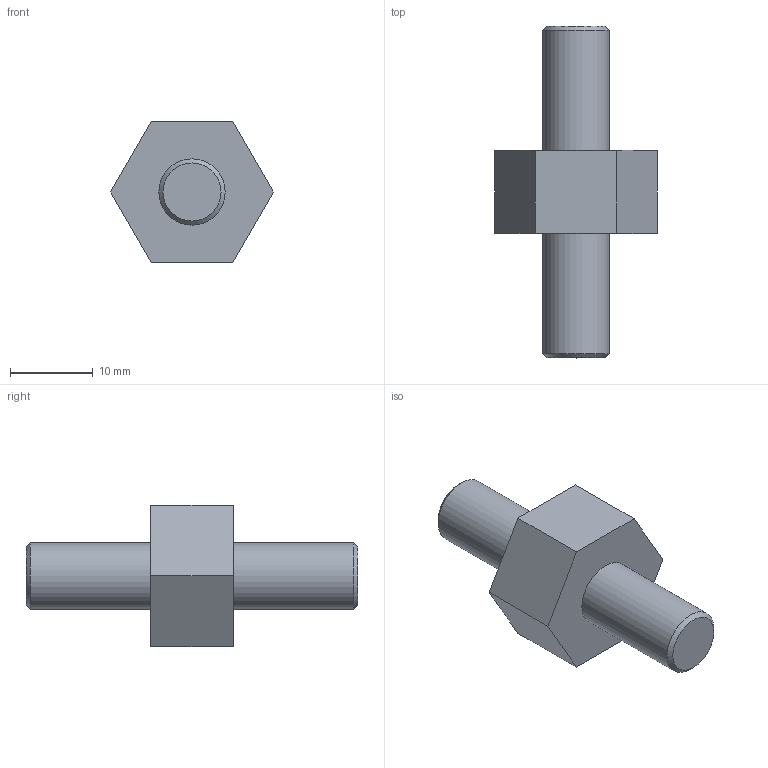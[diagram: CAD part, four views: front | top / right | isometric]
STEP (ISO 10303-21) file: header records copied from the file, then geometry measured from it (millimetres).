
FILE_DESCRIPTION (( 'STEP AP214' ), '1' );
FILE_NAME ('N30141.step', '2024-12-03T16:27:07', ( '' ), ( '' ), 'SwSTEP 2.0', 'SolidWorks 2023', '' );
FILE_SCHEMA (( 'AUTOMOTIVE_DESIGN' ));
Length unit declared in the file: millimetre
Products named in the file (1): N30141
Bounding box: 19.63 x 40 x 17 mm (x, y, z)
Volume: 4004.8 mm3; surface area: 1828.1 mm2
Topology: 1 solids, 1 shells, 14 faces, 29 edges, 19 vertices
Faces by surface type: plane 10, cylinder 2, cone 2
Full cylindrical faces by diameter (mm): 8 x2
Entity records: 365 total; most frequent: DIRECTION 60, CARTESIAN_POINT 57, ORIENTED_EDGE 48, EDGE_CURVE 24, AXIS2_PLACEMENT_3D 21, EDGE_LOOP 20, VERTEX_POINT 18, LINE 18
